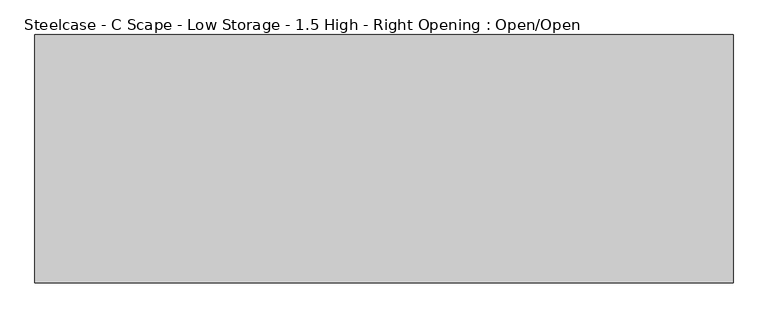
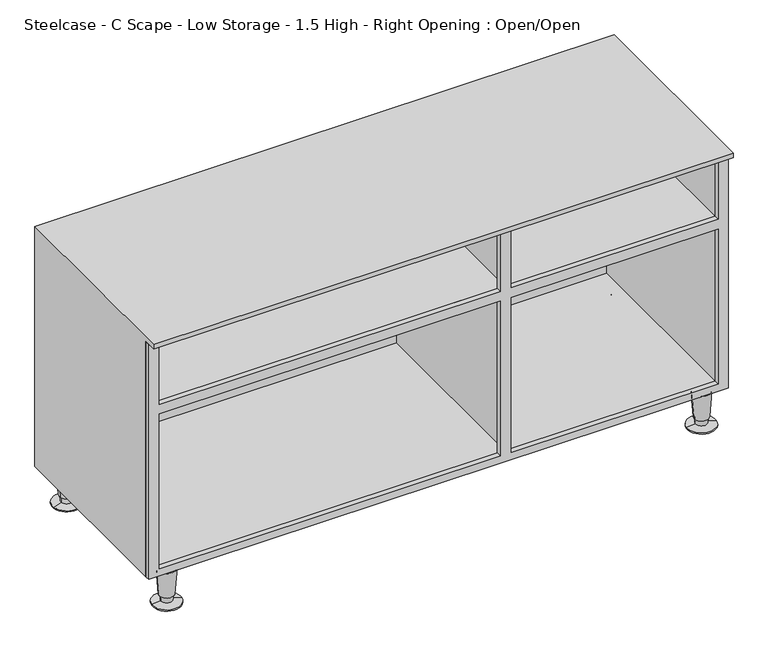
"""IFC4 building model written with IfcOpenShell, lengths in millimetres: furniture geometry, Steelcase - C Scape - Low Storage - 1.5 High - Right Opening : Open/Open."""

from ifc_helpers import new_model, si_unit, frame, origin, place, context, project, spatial, polyline, circle_curve, outline, extrude, faceted_brep, source, transform, mapped, element, save
from ifc_brep_helpers import plane_surface, cylinder_surface, revolved_surface, advanced_brep


def steelcase_c_scape_low_storage_1_5_high_right_opening_open_eeb43abf(model_context):
    return source(origin(), model_context, "Body", "SolidModel", [
        advanced_brep(
        [(1200.2097985, -403.1210225, 0.0), (1141.9877015, -394.2130493, 0.0), (1171.09875, -398.6670359, 0.0), (1200.2097985, -403.1210225, 2.5119506), (1141.9877015, -394.2130493, 2.5119506), (1182.860915, -400.4666456, 5.7545598), (1159.336585, -396.8674262, 5.7545598), (1183.5496845, -400.5720272, 19.05), (1158.6478155, -396.7620445, 19.05), (1185.9792714, -400.9437537, 19.05), (1156.2182286, -396.3903181, 19.05), (1189.9296195, -401.5481565, 76.2), (1152.2678805, -395.7859153, 76.2), (1171.09875, -398.6670359, 76.2)],
        [
            (0, 1, circle_curve(frame((1171.09875, -398.6670359, 0.0), z_axis=(0.0, 0.0, -1.0), x_axis=(0.0, 1.0, 0.0)), 29.4498071)),
            (1, 2),
            (2, 0),
            (1, 0, circle_curve(frame((1171.09875, -398.6670359, 0.0), z_axis=(0.0, 0.0, -1.0), x_axis=(0.0, 1.0, 0.0)), 29.4498071)),
            (3, 4, circle_curve(frame((1171.09875, -398.6670359, 2.5119506), z_axis=(0.0, 0.0, -1.0), x_axis=(0.0, 1.0, 0.0)), 29.4498071)),
            (4, 1),
            (0, 3),
            (4, 3, circle_curve(frame((1171.09875, -398.6670359, 2.5119506), z_axis=(0.0, 0.0, -1.0), x_axis=(0.0, 1.0, 0.0)), 29.4498071)),
            (5, 6, circle_curve(frame((1171.09875, -398.6670359, 5.7545598), z_axis=(0.0, 0.0, -1.0), x_axis=(0.0, 1.0, 0.0)), 11.8990387)),
            (6, 4),
            (3, 5),
            (6, 5, circle_curve(frame((1171.09875, -398.6670359, 5.7545598), z_axis=(0.0, 0.0, -1.0), x_axis=(0.0, 1.0, 0.0)), 11.8990387)),
            (7, 8, circle_curve(frame((1171.09875, -398.6670359, 19.05), z_axis=(0.0, 0.0, -1.0), x_axis=(0.0, 1.0, 0.0)), 12.5958232)),
            (8, 6),
            (5, 7),
            (8, 7, circle_curve(frame((1171.09875, -398.6670359, 19.05), z_axis=(0.0, 0.0, -1.0), x_axis=(0.0, 1.0, 0.0)), 12.5958232)),
            (9, 10, circle_curve(frame((1171.09875, -398.6670359, 19.05), z_axis=(0.0, 0.0, -1.0), x_axis=(0.0, 1.0, 0.0)), 15.0536827)),
            (10, 8),
            (7, 9),
            (10, 9, circle_curve(frame((1171.09875, -398.6670359, 19.05), z_axis=(0.0, 0.0, -1.0), x_axis=(0.0, 1.0, 0.0)), 15.0536827)),
            (11, 12, circle_curve(frame((1171.09875, -398.6670359, 76.2), z_axis=(0.0, 0.0, -1.0), x_axis=(0.0, 1.0, 0.0)), 19.05)),
            (12, 10),
            (9, 11),
            (12, 11, circle_curve(frame((1171.09875, -398.6670359, 76.2), z_axis=(0.0, 0.0, -1.0), x_axis=(0.0, 1.0, 0.0)), 19.05)),
            (13, 12),
            (11, 13),
        ],
        [
            plane_surface(frame((1171.09875, -398.6670359, 0.0), z_axis=(0.0, 0.0, -1.0), x_axis=(0.0, 1.0, 0.0))),
            cylinder_surface(frame((1171.09875, -398.6670359, 25.4), z_axis=(0.0, 0.0, 1.0), x_axis=(0.0, 1.0, 0.0)), 29.4498071),
            revolved_surface(polyline([(1171.09875, -369.2172288, 2.5119506), (1171.09875, -386.7679972, 5.7545598)]), (1171.09875, -398.6670359, 25.4), (0.0, 0.0, 1.0)),
            revolved_surface(polyline([(1171.09875, -386.7679972, 5.7545598), (1171.09875, -386.0712127, 19.05)]), (1171.09875, -398.6670359, 25.4), (0.0, 0.0, 1.0)),
            plane_surface(frame((1171.09875, -398.6670359, 19.05), z_axis=(0.0, 0.0, -1.0), x_axis=(0.0, 1.0, 0.0))),
            revolved_surface(polyline([(1171.09875, -383.6133532, 19.05), (1171.09875, -379.6170359, 76.2)]), (1171.09875, -398.6670359, 25.4), (0.0, 0.0, 1.0)),
            plane_surface(frame((1171.09875, -398.6670359, 76.2), z_axis=(0.0, 0.0, 1.0), x_axis=(0.0, 1.0, 0.0))),
        ],
        [
            (0, [[1, 2, 3]]),
            (0, [[4, -3, -2]]),
            (1, [[5, 6, -1, 7]]),
            (1, [[8, -7, -4, -6]]),
            (2, [[9, 10, -5, 11]]),
            (2, [[12, -11, -8, -10]]),
            (3, [[13, 14, -9, 15]]),
            (3, [[16, -15, -12, -14]]),
            (4, [[17, 18, -13, 19]]),
            (4, [[20, -19, -16, -18]]),
            (5, [[21, 22, -17, 23]]),
            (5, [[24, -23, -20, -22]]),
            (6, [[25, -21, 26]]),
            (6, [[-26, -24, -25]]),
        ],
    ),
        advanced_brep(
        [(75.8224611, -403.1210225, 0.0), (17.6003641, -394.2130493, 0.0), (46.7114126, -398.6670359, 0.0), (75.8224611, -403.1210225, 2.5119506), (17.6003641, -394.2130493, 2.5119506), (58.4735776, -400.4666456, 5.7545598), (34.9492476, -396.8674262, 5.7545598), (59.1623471, -400.5720272, 19.05), (34.2604781, -396.7620445, 19.05), (61.5919341, -400.9437537, 19.05), (31.8308912, -396.3903181, 19.05), (65.5422821, -401.5481565, 76.2), (27.8805432, -395.7859153, 76.2), (46.7114126, -398.6670359, 76.2)],
        [
            (0, 1, circle_curve(frame((46.7114126, -398.6670359, 0.0), z_axis=(0.0, 0.0, -1.0), x_axis=(0.0, 1.0, 0.0)), 29.4498071)),
            (1, 2),
            (2, 0),
            (1, 0, circle_curve(frame((46.7114126, -398.6670359, 0.0), z_axis=(0.0, 0.0, -1.0), x_axis=(0.0, 1.0, 0.0)), 29.4498071)),
            (3, 4, circle_curve(frame((46.7114126, -398.6670359, 2.5119506), z_axis=(0.0, 0.0, -1.0), x_axis=(0.0, 1.0, 0.0)), 29.4498071)),
            (4, 1),
            (0, 3),
            (4, 3, circle_curve(frame((46.7114126, -398.6670359, 2.5119506), z_axis=(0.0, 0.0, -1.0), x_axis=(0.0, 1.0, 0.0)), 29.4498071)),
            (5, 6, circle_curve(frame((46.7114126, -398.6670359, 5.7545598), z_axis=(0.0, 0.0, -1.0), x_axis=(0.0, 1.0, 0.0)), 11.8990387)),
            (6, 4),
            (3, 5),
            (6, 5, circle_curve(frame((46.7114126, -398.6670359, 5.7545598), z_axis=(0.0, 0.0, -1.0), x_axis=(0.0, 1.0, 0.0)), 11.8990387)),
            (7, 8, circle_curve(frame((46.7114126, -398.6670359, 19.05), z_axis=(0.0, 0.0, -1.0), x_axis=(0.0, 1.0, 0.0)), 12.5958232)),
            (8, 6),
            (5, 7),
            (8, 7, circle_curve(frame((46.7114126, -398.6670359, 19.05), z_axis=(0.0, 0.0, -1.0), x_axis=(0.0, 1.0, 0.0)), 12.5958232)),
            (9, 10, circle_curve(frame((46.7114126, -398.6670359, 19.05), z_axis=(0.0, 0.0, -1.0), x_axis=(0.0, 1.0, 0.0)), 15.0536827)),
            (10, 8),
            (7, 9),
            (10, 9, circle_curve(frame((46.7114126, -398.6670359, 19.05), z_axis=(0.0, 0.0, -1.0), x_axis=(0.0, 1.0, 0.0)), 15.0536827)),
            (11, 12, circle_curve(frame((46.7114126, -398.6670359, 76.2), z_axis=(0.0, 0.0, -1.0), x_axis=(0.0, 1.0, 0.0)), 19.05)),
            (12, 10),
            (9, 11),
            (12, 11, circle_curve(frame((46.7114126, -398.6670359, 76.2), z_axis=(0.0, 0.0, -1.0), x_axis=(0.0, 1.0, 0.0)), 19.05)),
            (13, 12),
            (11, 13),
        ],
        [
            plane_surface(frame((46.7114126, -398.6670359, 0.0), z_axis=(0.0, 0.0, -1.0), x_axis=(0.0, 1.0, 0.0))),
            cylinder_surface(frame((46.7114126, -398.6670359, 25.4), z_axis=(0.0, 0.0, 1.0), x_axis=(0.0, 1.0, 0.0)), 29.4498071),
            revolved_surface(polyline([(46.7114126, -369.2172288, 2.5119506), (46.7114126, -386.7679972, 5.7545598)]), (46.7114126, -398.6670359, 25.4), (0.0, 0.0, 1.0)),
            revolved_surface(polyline([(46.7114126, -386.7679972, 5.7545598), (46.7114126, -386.0712127, 19.05)]), (46.7114126, -398.6670359, 25.4), (0.0, 0.0, 1.0)),
            plane_surface(frame((46.7114126, -398.6670359, 19.05), z_axis=(0.0, 0.0, -1.0), x_axis=(0.0, 1.0, 0.0))),
            revolved_surface(polyline([(46.7114126, -383.6133532, 19.05), (46.7114126, -379.6170359, 76.2)]), (46.7114126, -398.6670359, 25.4), (0.0, 0.0, 1.0)),
            plane_surface(frame((46.7114126, -398.6670359, 76.2), z_axis=(0.0, 0.0, 1.0), x_axis=(0.0, 1.0, 0.0))),
        ],
        [
            (0, [[1, 2, 3]]),
            (0, [[4, -3, -2]]),
            (1, [[5, 6, -1, 7]]),
            (1, [[8, -7, -4, -6]]),
            (2, [[9, 10, -5, 11]]),
            (2, [[12, -11, -8, -10]]),
            (3, [[13, 14, -9, 15]]),
            (3, [[16, -15, -12, -14]]),
            (4, [[17, 18, -13, 19]]),
            (4, [[20, -19, -16, -18]]),
            (5, [[21, 22, -17, 23]]),
            (5, [[24, -23, -20, -22]]),
            (6, [[25, -21, 26]]),
            (6, [[-26, -24, -25]]),
        ],
    ),
        extrude(outline(polyline([(599.44, 1217.93), (599.44, 0.0), (76.2, 0.0), (76.2, 1217.93), (599.44, 1217.93)]), holes=[polyline([(436.9435121, 21.3256814), (436.9435121, 738.5047189), (92.7100024, 738.5047189), (92.7100024, 21.3256814), (436.9435121, 21.3256814)]), polyline([(92.7100024, 1196.5961479), (92.7100024, 761.365), (436.9435121, 761.365), (436.9435121, 1196.5961479), (92.7100024, 1196.5961479)]), polyline([(585.724, 1196.5961479), (458.7875121, 1196.5961479), (458.7875121, 761.365), (585.724, 761.365), (585.724, 1196.5961479)]), polyline([(585.724, 21.3382324), (585.724, 738.5047189), (458.7875121, 738.5047189), (458.7875121, 21.3382324), (585.724, 21.3382324)])]), frame((0.0, -415.2912402, 0.0), z_axis=(0.0, 1.0, 0.0), x_axis=(0.0, 0.0, 1.0)), (0.0, 0.0, 1.0), 10.9228992),
        advanced_brep(
        [(1189.9296195, -31.5218435, 76.2), (1152.2678805, -37.2840847, 76.2), (1171.09875, -34.4029641, 76.2), (1185.9792714, -32.1262463, 19.05), (1156.2182286, -36.6796819, 19.05), (1183.5496845, -32.4979728, 19.05), (1158.6478155, -36.3079555, 19.05), (1182.860915, -32.6033544, 5.7545598), (1159.336585, -36.2025738, 5.7545598), (1200.2097985, -29.9489775, 2.5119506), (1141.9877015, -38.8569507, 2.5119506), (1200.2097985, -29.9489775, 0.0), (1141.9877015, -38.8569507, 0.0), (1171.09875, -34.4029641, 0.0)],
        [
            (0, 1, circle_curve(frame((1171.09875, -34.4029641, 76.2), z_axis=(0.0, 0.0, 1.0), x_axis=(0.0, -1.0, 0.0)), 19.05)),
            (1, 2),
            (2, 0),
            (1, 0, circle_curve(frame((1171.09875, -34.4029641, 76.2), z_axis=(0.0, 0.0, 1.0), x_axis=(0.0, -1.0, 0.0)), 19.05)),
            (3, 4, circle_curve(frame((1171.09875, -34.4029641, 19.05), z_axis=(0.0, 0.0, 1.0), x_axis=(0.0, -1.0, 0.0)), 15.0536827)),
            (4, 1),
            (0, 3),
            (4, 3, circle_curve(frame((1171.09875, -34.4029641, 19.05), z_axis=(0.0, 0.0, 1.0), x_axis=(0.0, -1.0, 0.0)), 15.0536827)),
            (5, 6, circle_curve(frame((1171.09875, -34.4029641, 19.05), z_axis=(0.0, 0.0, 1.0), x_axis=(0.0, -1.0, 0.0)), 12.5958232)),
            (6, 4),
            (3, 5),
            (6, 5, circle_curve(frame((1171.09875, -34.4029641, 19.05), z_axis=(0.0, 0.0, 1.0), x_axis=(0.0, -1.0, 0.0)), 12.5958232)),
            (7, 8, circle_curve(frame((1171.09875, -34.4029641, 5.7545598), z_axis=(0.0, 0.0, 1.0), x_axis=(0.0, -1.0, 0.0)), 11.8990387)),
            (8, 6),
            (5, 7),
            (8, 7, circle_curve(frame((1171.09875, -34.4029641, 5.7545598), z_axis=(0.0, 0.0, 1.0), x_axis=(0.0, -1.0, 0.0)), 11.8990387)),
            (9, 10, circle_curve(frame((1171.09875, -34.4029641, 2.5119506), z_axis=(0.0, 0.0, 1.0), x_axis=(0.0, -1.0, 0.0)), 29.4498071)),
            (10, 8),
            (7, 9),
            (10, 9, circle_curve(frame((1171.09875, -34.4029641, 2.5119506), z_axis=(0.0, 0.0, 1.0), x_axis=(0.0, -1.0, 0.0)), 29.4498071)),
            (11, 12, circle_curve(frame((1171.09875, -34.4029641, 0.0), z_axis=(0.0, 0.0, 1.0), x_axis=(0.0, -1.0, 0.0)), 29.4498071)),
            (12, 10),
            (9, 11),
            (12, 11, circle_curve(frame((1171.09875, -34.4029641, 0.0), z_axis=(0.0, 0.0, 1.0), x_axis=(0.0, -1.0, 0.0)), 29.4498071)),
            (13, 12),
            (11, 13),
        ],
        [
            plane_surface(frame((1171.09875, -34.4029641, 76.2), z_axis=(0.0, 0.0, 1.0), x_axis=(0.0, -1.0, 0.0))),
            revolved_surface(polyline([(1171.09875, -53.4529641, 76.2), (1171.09875, -49.4566468, 19.05)]), (1171.09875, -34.4029641, 25.4), (0.0, 0.0, -1.0)),
            plane_surface(frame((1171.09875, -34.4029641, 19.05), z_axis=(0.0, 0.0, -1.0), x_axis=(0.0, -1.0, 0.0))),
            revolved_surface(polyline([(1171.09875, -46.9987873, 19.05), (1171.09875, -46.3020028, 5.7545598)]), (1171.09875, -34.4029641, 25.4), (0.0, 0.0, -1.0)),
            revolved_surface(polyline([(1171.09875, -46.3020028, 5.7545598), (1171.09875, -63.8527712, 2.5119506)]), (1171.09875, -34.4029641, 25.4), (0.0, 0.0, -1.0)),
            cylinder_surface(frame((1171.09875, -34.4029641, 25.4), z_axis=(0.0, 0.0, -1.0), x_axis=(0.0, -1.0, 0.0)), 29.4498071),
            plane_surface(frame((1171.09875, -34.4029641, 0.0), z_axis=(0.0, 0.0, -1.0), x_axis=(0.0, -1.0, 0.0))),
        ],
        [
            (0, [[1, 2, 3]]),
            (0, [[4, -3, -2]]),
            (1, [[5, 6, -1, 7]]),
            (1, [[8, -7, -4, -6]]),
            (2, [[9, 10, -5, 11]]),
            (2, [[12, -11, -8, -10]]),
            (3, [[13, 14, -9, 15]]),
            (3, [[16, -15, -12, -14]]),
            (4, [[17, 18, -13, 19]]),
            (4, [[20, -19, -16, -18]]),
            (5, [[21, 22, -17, 23]]),
            (5, [[24, -23, -20, -22]]),
            (6, [[25, -21, 26]]),
            (6, [[-26, -24, -25]]),
        ],
    ),
        advanced_brep(
        [(65.5422821, -31.5218435, 76.2), (27.8805432, -37.2840847, 76.2), (46.7114126, -34.4029641, 76.2), (61.5919341, -32.1262463, 19.05), (31.8308912, -36.6796819, 19.05), (59.1623471, -32.4979728, 19.05), (34.2604781, -36.3079555, 19.05), (58.4735776, -32.6033544, 5.7545598), (34.9492476, -36.2025738, 5.7545598), (75.8224611, -29.9489775, 2.5119506), (17.6003641, -38.8569507, 2.5119506), (75.8224611, -29.9489775, 0.0), (17.6003641, -38.8569507, 0.0), (46.7114126, -34.4029641, 0.0)],
        [
            (0, 1, circle_curve(frame((46.7114126, -34.4029641, 76.2), z_axis=(0.0, 0.0, 1.0), x_axis=(0.0, -1.0, 0.0)), 19.05)),
            (1, 2),
            (2, 0),
            (1, 0, circle_curve(frame((46.7114126, -34.4029641, 76.2), z_axis=(0.0, 0.0, 1.0), x_axis=(0.0, -1.0, 0.0)), 19.05)),
            (3, 4, circle_curve(frame((46.7114126, -34.4029641, 19.05), z_axis=(0.0, 0.0, 1.0), x_axis=(0.0, -1.0, 0.0)), 15.0536827)),
            (4, 1),
            (0, 3),
            (4, 3, circle_curve(frame((46.7114126, -34.4029641, 19.05), z_axis=(0.0, 0.0, 1.0), x_axis=(0.0, -1.0, 0.0)), 15.0536827)),
            (5, 6, circle_curve(frame((46.7114126, -34.4029641, 19.05), z_axis=(0.0, 0.0, 1.0), x_axis=(0.0, -1.0, 0.0)), 12.5958232)),
            (6, 4),
            (3, 5),
            (6, 5, circle_curve(frame((46.7114126, -34.4029641, 19.05), z_axis=(0.0, 0.0, 1.0), x_axis=(0.0, -1.0, 0.0)), 12.5958232)),
            (7, 8, circle_curve(frame((46.7114126, -34.4029641, 5.7545598), z_axis=(0.0, 0.0, 1.0), x_axis=(0.0, -1.0, 0.0)), 11.8990387)),
            (8, 6),
            (5, 7),
            (8, 7, circle_curve(frame((46.7114126, -34.4029641, 5.7545598), z_axis=(0.0, 0.0, 1.0), x_axis=(0.0, -1.0, 0.0)), 11.8990387)),
            (9, 10, circle_curve(frame((46.7114126, -34.4029641, 2.5119506), z_axis=(0.0, 0.0, 1.0), x_axis=(0.0, -1.0, 0.0)), 29.4498071)),
            (10, 8),
            (7, 9),
            (10, 9, circle_curve(frame((46.7114126, -34.4029641, 2.5119506), z_axis=(0.0, 0.0, 1.0), x_axis=(0.0, -1.0, 0.0)), 29.4498071)),
            (11, 12, circle_curve(frame((46.7114126, -34.4029641, 0.0), z_axis=(0.0, 0.0, 1.0), x_axis=(0.0, -1.0, 0.0)), 29.4498071)),
            (12, 10),
            (9, 11),
            (12, 11, circle_curve(frame((46.7114126, -34.4029641, 0.0), z_axis=(0.0, 0.0, 1.0), x_axis=(0.0, -1.0, 0.0)), 29.4498071)),
            (13, 12),
            (11, 13),
        ],
        [
            plane_surface(frame((46.7114126, -34.4029641, 76.2), z_axis=(0.0, 0.0, 1.0), x_axis=(0.0, -1.0, 0.0))),
            revolved_surface(polyline([(46.7114126, -53.4529641, 76.2), (46.7114126, -49.4566468, 19.05)]), (46.7114126, -34.4029641, 25.4), (0.0, 0.0, -1.0)),
            plane_surface(frame((46.7114126, -34.4029641, 19.05), z_axis=(0.0, 0.0, -1.0), x_axis=(0.0, -1.0, 0.0))),
            revolved_surface(polyline([(46.7114126, -46.9987873, 19.05), (46.7114126, -46.3020028, 5.7545598)]), (46.7114126, -34.4029641, 25.4), (0.0, 0.0, -1.0)),
            revolved_surface(polyline([(46.7114126, -46.3020028, 5.7545598), (46.7114126, -63.8527712, 2.5119506)]), (46.7114126, -34.4029641, 25.4), (0.0, 0.0, -1.0)),
            cylinder_surface(frame((46.7114126, -34.4029641, 25.4), z_axis=(0.0, 0.0, -1.0), x_axis=(0.0, -1.0, 0.0)), 29.4498071),
            plane_surface(frame((46.7114126, -34.4029641, 0.0), z_axis=(0.0, 0.0, -1.0), x_axis=(0.0, -1.0, 0.0))),
        ],
        [
            (0, [[1, 2, 3]]),
            (0, [[4, -3, -2]]),
            (1, [[5, 6, -1, 7]]),
            (1, [[8, -7, -4, -6]]),
            (2, [[9, 10, -5, 11]]),
            (2, [[12, -11, -8, -10]]),
            (3, [[13, 14, -9, 15]]),
            (3, [[16, -15, -12, -14]]),
            (4, [[17, 18, -13, 19]]),
            (4, [[20, -19, -16, -18]]),
            (5, [[21, 22, -17, 23]]),
            (5, [[24, -23, -20, -22]]),
            (6, [[25, -21, 26]]),
            (6, [[-26, -24, -25]]),
        ],
    ),
        faceted_brep([(0.0, 0.0, 609.6), (1217.93, 0.0, 609.6), (1217.93, 0.0, 76.2), (0.0, 0.0, 76.2), (0.0, -433.07, 609.6), (0.0, -404.3683411, 76.2), (0.0, -404.3683411, 599.44), (0.0, -433.07, 599.44), (21.3382324, -404.3683411, 599.44), (1217.93, -404.3683411, 76.2), (1217.93, -404.3683411, 599.44), (1196.5961479, -404.3683411, 599.44), (1196.5961479, -404.3683411, 458.7875121), (760.73, -404.3683411, 458.7875121), (760.73, -404.3683411, 599.44), (754.3812797, -404.3683411, 599.44), (754.3812797, -404.3683411, 458.7875121), (21.3382324, -404.3683411, 458.7875121), (1196.5961479, -404.3683411, 450.8499879), (1196.5961479, -404.3683411, 92.7100024), (760.73, -404.3683411, 92.7100024), (760.73, -404.3683411, 450.8499879), (754.3812797, -404.3683411, 450.8499879), (754.3812797, -404.3683411, 92.7100024), (21.3382324, -404.3683411, 92.7100024), (21.3382324, -404.3683411, 450.8499879), (21.3382324, -9.525, 599.44), (21.3382324, -9.525, 458.7875121), (21.3382324, -9.525, 92.7100024), (21.3382324, -9.525, 450.8499879), (754.3812797, -9.525, 599.44), (754.3812797, -9.525, 458.7875121), (754.3812797, -9.525, 92.7100024), (754.3812797, -9.525, 450.8499879), (760.73, -9.525, 599.44), (760.73, -9.525, 458.7875121), (760.73, -9.525, 92.7100024), (760.73, -9.525, 450.8499879), (1196.5961479, -9.525, 599.44), (1196.5961479, -9.525, 458.7875121), (1196.5961479, -9.525, 92.7100024), (1196.5961479, -9.525, 450.8499879), (1217.93, -433.07, 609.6), (1217.93, -433.07, 599.44)], [[[0, 1, 2, 3]], [[4, 0, 3, 5, 6, 7]], [[8, 6, 5, 9, 10, 11, 12, 13, 14, 15, 16, 17], [18, 19, 20, 21], [22, 23, 24, 25]], [[26, 8, 17, 27]], [[25, 24, 28, 29]], [[30, 26, 27, 31]], [[29, 28, 32, 33]], [[15, 30, 31, 16]], [[33, 32, 23, 22]], [[34, 14, 13, 35]], [[21, 20, 36, 37]], [[38, 34, 35, 39]], [[37, 36, 40, 41]], [[11, 38, 39, 12]], [[41, 40, 19, 18]], [[2, 1, 42, 43, 10, 9]], [[1, 0, 4, 42]], [[43, 7, 6, 8, 26, 30, 15, 14, 34, 38, 11, 10]], [[42, 4, 7, 43]], [[13, 12, 39, 35]], [[17, 16, 31, 27]], [[18, 21, 37, 41]], [[22, 25, 29, 33]], [[20, 19, 40, 36]], [[24, 23, 32, 28]], [[2, 9, 5, 3]]]),
    ])


if __name__ == "__main__":
    model = new_model("IFC4")
    model_context = context("Model", 3, world=origin())
    ifc_project = project(units=[si_unit("LENGTHUNIT", "METRE", prefix="MILLI")], contexts=[model_context])
    site = spatial("IfcSite", under=ifc_project)
    building = spatial("IfcBuilding", under=site)
    placement = place(None, origin())
    steelcase_c_scape_low_storage_1_5_high_right_opening_open_shape = steelcase_c_scape_low_storage_1_5_high_right_opening_open_eeb43abf(model_context)
    element("IfcFurniture", 1, ObjectType="Steelcase - C Scape - Low Storage - 1.5 High - Right Opening : Open/Open", at=placement, inside=building, context=model_context, shape_type="MappedRepresentation", body=[
        mapped(steelcase_c_scape_low_storage_1_5_high_right_opening_open_shape, transform((0.0, 0.0, 0.0), x_axis=(1.0, 0.0, 0.0), y_axis=(0.0, 1.0, 0.0), z_axis=(0.0, 0.0, 1.0))),
    ])
    save(model, "model.ifc")
